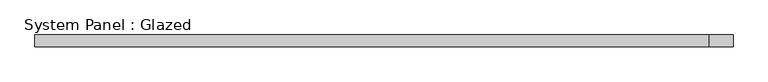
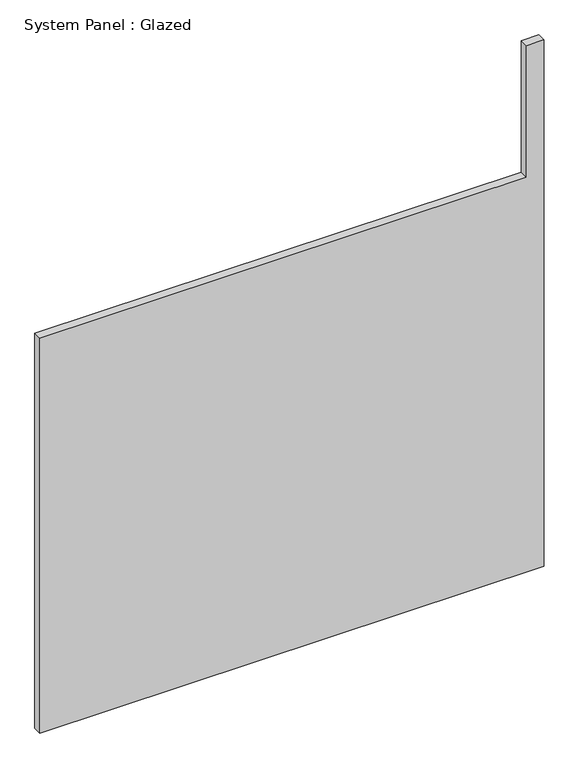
"""IFC4 building model written with IfcOpenShell, lengths in millimetres: plate geometry, System Panel : Glazed."""

import ifcopenshell
import ifcopenshell.guid

model = None  # the IFC model being written
_history = None  # IfcOwnerHistory: only IFC2X3 demands one
_inside = {}  # id of a spatial element -> (the spatial element, [elements in it])
_under = {}  # id of a project, library or spatial element -> (it, [spatial elements below it])
_declared = {}  # id of a project -> (the project, [libraries it declares])
_typed = {}  # id of a type object -> (the type object, [elements of that type])
_made_of = {}  # id of a material, layer set ... -> (it, [elements and type objects made of it])


def new_model(schema):
    """Start an empty IFC model of exactly this schema.

    Asked for "IFC4X3", IfcOpenShell would pick the latest addendum, in which some entities
    have other attributes; the version numbers below select the first issue.
    IFC2X3 requires an IfcOwnerHistory on every rooted entity: one is made here for all.
    """
    global model, _history
    if schema == "IFC4X3":
        model = ifcopenshell.file(schema_version=(4, 3, 0, 0))
    else:
        model = ifcopenshell.file(schema=schema)
    _inside.clear()
    _under.clear()
    _declared.clear()
    _typed.clear()
    _made_of.clear()
    _history = None
    if model.schema == "IFC2X3":
        org = make("IfcOrganization", Name="unknown")
        user = make(
            "IfcPersonAndOrganization",
            ThePerson=make("IfcPerson", FamilyName="unknown"),
            TheOrganization=org,
        )
        app = make(
            "IfcApplication",
            ApplicationDeveloper=org,
            Version="unknown",
            ApplicationFullName="unknown",
            ApplicationIdentifier="unknown",
        )
        _history = make(
            "IfcOwnerHistory",
            OwningUser=user,
            OwningApplication=app,
            ChangeAction="ADDED",
            CreationDate=0,
        )
    return model


def make(cls, **values):
    """One entity of the class cls with the attributes given. An attribute that is None is left unset."""
    return model.create_entity(
        cls, **{name: value for name, value in values.items() if value is not None}
    )


def rooted(cls, **values):
    """An entity with a GlobalId (a new one), such as an element, a storey or a relation."""
    return make(cls, GlobalId=ifcopenshell.guid.new(), OwnerHistory=_history, **values)


def si_unit(unit_type, name, prefix=None):
    """IfcSIUnit, for example si_unit("LENGTHUNIT", "METRE", prefix="MILLI")."""
    return make("IfcSIUnit", UnitType=unit_type, Prefix=prefix, Name=name)


def assignment(units):
    """IfcUnitAssignment: the units of a project."""
    return None if units is None else make("IfcUnitAssignment", Units=units)


def point(xyz):
    """IfcCartesianPoint."""
    return None if xyz is None else make("IfcCartesianPoint", Coordinates=xyz)


def direction(xyz):
    """IfcDirection."""
    return None if xyz is None else make("IfcDirection", DirectionRatios=xyz)


def frame(location, z_axis=None, x_axis=None):
    """IfcAxis2Placement3D, a coordinate frame: its origin and axes. An axis left out is left unset."""
    return make(
        "IfcAxis2Placement3D",
        Location=point(location),
        Axis=direction(z_axis),
        RefDirection=direction(x_axis),
    )


def origin():
    """The frame at (0, 0, 0) with its axes left unset."""
    return frame((0.0, 0.0, 0.0))


def place(relative_to, where):
    """IfcLocalPlacement: puts the frame where relative to a parent placement (None: the world)."""
    return make(
        "IfcLocalPlacement", PlacementRelTo=relative_to, RelativePlacement=where
    )


def context(
    kind, dimensions, precision=None, world=None, true_north=None, identifier=None
):
    """IfcGeometricRepresentationContext, for example the 3D "Model" context."""
    return make(
        "IfcGeometricRepresentationContext",
        ContextIdentifier=identifier,
        ContextType=kind,
        CoordinateSpaceDimension=dimensions,
        Precision=precision,
        WorldCoordinateSystem=world,
        TrueNorth=true_north,
    )


def project(units=None, contexts=None):
    """IfcProject with its units and contexts."""
    return rooted(
        "IfcProject",
        Name="project",
        RepresentationContexts=contexts,
        UnitsInContext=assignment(units),
    )


def spatial(cls, under=None, at=None, **own):
    """A site, building, storey or space (cls), placed at a placement, below another one or the project."""
    s = rooted(cls, ObjectPlacement=at, **own)
    if under is not None:
        _under.setdefault(under.id(), (under, []))[1].append(s)
    return s


def polyline(points):
    """IfcPolyline through the points."""
    return make("IfcPolyline", Points=[point(p) for p in points])


def outline(outer, holes=None, kind="AREA"):
    """IfcArbitraryClosedProfileDef: a profile drawn as a closed curve; with holes, ...WithVoids."""
    if holes is None:
        return make("IfcArbitraryClosedProfileDef", ProfileType=kind, OuterCurve=outer)
    return make(
        "IfcArbitraryProfileDefWithVoids",
        ProfileType=kind,
        OuterCurve=outer,
        InnerCurves=holes,
    )


def extrude(swept, where, along, depth):
    """IfcExtrudedAreaSolid: the profile swept, set in the frame where, extruded along a direction by depth."""
    return make(
        "IfcExtrudedAreaSolid",
        SweptArea=swept,
        Position=where,
        ExtrudedDirection=direction(along),
        Depth=depth,
    )


def shape(context_of_items, identifier, shape_type, items):
    """IfcShapeRepresentation: the items that make up one representation, for example the "Body"."""
    return make(
        "IfcShapeRepresentation",
        ContextOfItems=context_of_items,
        RepresentationIdentifier=identifier,
        RepresentationType=shape_type,
        Items=items,
    )


def source(mapping_origin, context_of_items, identifier, shape_type, items):
    """IfcRepresentationMap: a shape defined once, which mapped items show again and again."""
    return make(
        "IfcRepresentationMap",
        MappingOrigin=mapping_origin,
        MappedRepresentation=shape(context_of_items, identifier, shape_type, items),
    )


def transform(
    local_origin,
    x_axis=None,
    y_axis=None,
    z_axis=None,
    scale=None,
    scale2=None,
    scale3=None,
    uniform=True,
):
    """IfcCartesianTransformationOperator3D, or its non-uniform kind. x_axis, y_axis, z_axis: its Axis1, 2, 3."""
    if uniform:
        return make(
            "IfcCartesianTransformationOperator3D",
            Axis1=direction(x_axis),
            Axis2=direction(y_axis),
            LocalOrigin=point(local_origin),
            Scale=scale,
            Axis3=direction(z_axis),
        )
    return make(
        "IfcCartesianTransformationOperator3DnonUniform",
        Axis1=direction(x_axis),
        Axis2=direction(y_axis),
        LocalOrigin=point(local_origin),
        Scale=scale,
        Axis3=direction(z_axis),
        Scale2=scale2,
        Scale3=scale3,
    )


def mapped(mapping_source, mapping_target):
    """IfcMappedItem: shows the shape of a source again, moved by a transform."""
    return make(
        "IfcMappedItem", MappingSource=mapping_source, MappingTarget=mapping_target
    )


def made_of(thing, what):
    """Note that an element or type object is made of a material, layer set ...; save() writes the relation."""
    if what is not None:
        _made_of.setdefault(what.id(), (what, []))[1].append(thing)
    return thing


def element(
    cls,
    number,
    at=None,
    inside=None,
    cuts=None,
    type_object=None,
    material=None,
    context=None,
    identifier="Body",
    shape_type=None,
    held_by="IfcProductDefinitionShape",
    body=None,
    shapes=None,
    **own,
):
    """One element of the class cls, such as IfcWall. Its Tag is "e" and its number.

    at: its placement. inside: the storey or other place that contains it. cuts: it is an
    opening in that element (IfcRelVoidsElement). A single representation is given by context,
    identifier, shape_type and body (its items); several are given by shapes. held_by: the class
    of the entity that holds the representations. save() writes the other relations.
    """
    e = rooted(cls, Tag="e%d" % number, ObjectPlacement=at, **own)
    if body is not None:
        shapes = [shape(context, identifier, shape_type, body)]
    if shapes is not None:
        e.Representation = make(held_by, Representations=shapes)
    if inside is not None:
        _inside.setdefault(inside.id(), (inside, []))[1].append(e)
    if cuts is not None:
        rooted(
            "IfcRelVoidsElement", RelatingBuildingElement=cuts, RelatedOpeningElement=e
        )
    if type_object is not None:
        _typed.setdefault(type_object.id(), (type_object, []))[1].append(e)
    return made_of(e, material)


def aggregate(whole, parts):
    """IfcRelAggregates: a whole, such as a stair, and the parts it consists of."""
    return rooted("IfcRelAggregates", RelatingObject=whole, RelatedObjects=parts)


def save(model, path):
    """Write the relations noted so far, then the file.

    IfcRelAggregates (storeys below a building ...), IfcRelContainedInSpatialStructure (elements
    in a storey), IfcRelDefinesByType, IfcRelAssociatesMaterial and IfcRelDeclares: one each for
    every whole, place, type object, material and project.
    """
    for whole, parts in _under.values():
        aggregate(whole, parts)
    for where, things in _inside.values():
        rooted(
            "IfcRelContainedInSpatialStructure",
            RelatedElements=things,
            RelatingStructure=where,
        )
    for kind, things in _typed.values():
        rooted("IfcRelDefinesByType", RelatedObjects=things, RelatingType=kind)
    for what, things in _made_of.values():
        rooted("IfcRelAssociatesMaterial", RelatedObjects=things, RelatingMaterial=what)
    for by, libraries in _declared.values():
        rooted("IfcRelDeclares", RelatingContext=by, RelatedDefinitions=libraries)
    model.write(path)


def system_panel_glazed_822149c0(model_context):
    return source(origin(), model_context, "Body", "SweptSolid", [
        extrude(outline(polyline([(0.0, -725.0000001), (0.0, 725.0000001), (1600.0, 725.0000001), (1600.0, 675.0000001), (1200.0, 675.0000001), (1200.0, -725.0000001), (0.0, -725.0000001)])), frame((0.0, 24.5, 0.0), z_axis=(0.0, 1.0, 0.0), x_axis=(0.0, 0.0, 1.0)), (0.0, 0.0, 1.0), 25.0),
    ])


if __name__ == "__main__":
    model = new_model("IFC4")
    model_context = context("Model", 3, world=origin())
    ifc_project = project(units=[si_unit("LENGTHUNIT", "METRE", prefix="MILLI")], contexts=[model_context])
    site = spatial("IfcSite", under=ifc_project)
    building = spatial("IfcBuilding", under=site)
    placement = place(None, origin())
    system_panel_glazed_shape = system_panel_glazed_822149c0(model_context)
    element("IfcPlate", 1, ObjectType="System Panel : Glazed", at=placement, inside=building, context=model_context, shape_type="MappedRepresentation", body=[
        mapped(system_panel_glazed_shape, transform((0.0, 0.0, 0.0), x_axis=(1.0, 0.0, 0.0), y_axis=(0.0, 1.0, 0.0), z_axis=(0.0, 0.0, 1.0))),
    ])
    save(model, "model.ifc")
